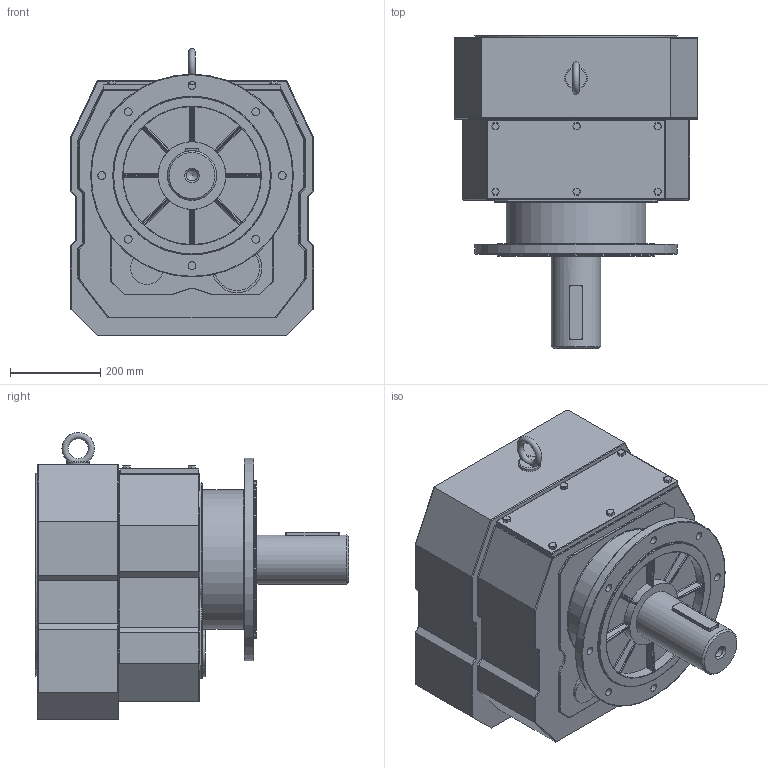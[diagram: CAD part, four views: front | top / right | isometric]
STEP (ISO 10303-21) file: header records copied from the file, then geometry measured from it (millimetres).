
FILE_DESCRIPTION((''),'2;1');
FILE_NAME('D:\PAWEŁ\ZLECENIA\2011 DualSystem\Przekładnie DR\DR140\STEP\DRF140_fi 450.stp','2012-06-11T12:44:39',('admin'),(''),'Autodesk Inventor 2009','Autodesk Inventor 2009','');
FILE_SCHEMA(('AUTOMOTIVE_DESIGN { 1 0 10303 214 1 1 1 1 }'));
Length unit declared in the file: millimetre
Products named in the file (1): DRF140_fi 450
Bounding box: 540 x 695 x 636.98 mm (x, y, z)
Volume: 109343946 mm3; surface area: 1892941 mm2
Topology: 2 solids, 2 shells, 508 faces, 1222 edges, 694 vertices
Faces by surface type: cylinder 231, plane 165, bspline 47, sphere 44, torus 19, cone 2
Full cylindrical faces by diameter (mm): 50 x1, 73.333 x1, 100 x1, 110 x2, 150 x1, 306 x1, 310 x1, 340 x1, 350 x1, 450 x2
Entity records: 18714 total; most frequent: CARTESIAN_POINT 7027, DIRECTION 2502, ORIENTED_EDGE 2272, EDGE_CURVE 1136, AXIS2_PLACEMENT_3D 947, VERTEX_POINT 681, VECTOR 608, LINE 608
